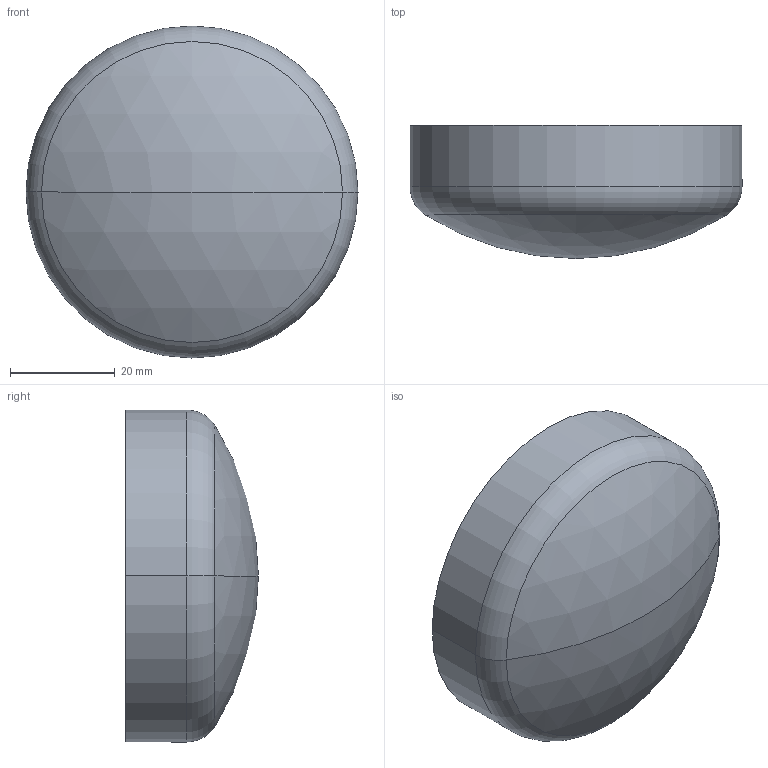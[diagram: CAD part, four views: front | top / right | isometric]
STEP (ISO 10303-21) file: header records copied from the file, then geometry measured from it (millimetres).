
FILE_DESCRIPTION (( 'STEP AP214' ), '1' );
FILE_NAME ('E16W 2.5 REV4.STEP', '2025-07-10T15:50:12', ( '' ), ( '' ), 'SwSTEP 2.0', 'SolidWorks 2022', '' );
FILE_SCHEMA (( 'AUTOMOTIVE_DESIGN' ));
Length unit declared in the file: inch
Products named in the file (1): E16W 2.5 REV4
Bounding box: 63.5 x 25.4 x 63.5 mm (x, y, z)
Volume: 10010.3 mm3; surface area: 12452.9 mm2
Topology: 1 solids, 1 shells, 13 faces, 24 edges, 14 vertices
Faces by surface type: sphere 4, torus 4, cylinder 4, plane 1
Entity records: 370 total; most frequent: DIRECTION 72, CARTESIAN_POINT 52, ORIENTED_EDGE 48, AXIS2_PLACEMENT_3D 34, EDGE_CURVE 24, CIRCLE 20, EDGE_LOOP 14, VERTEX_POINT 14
